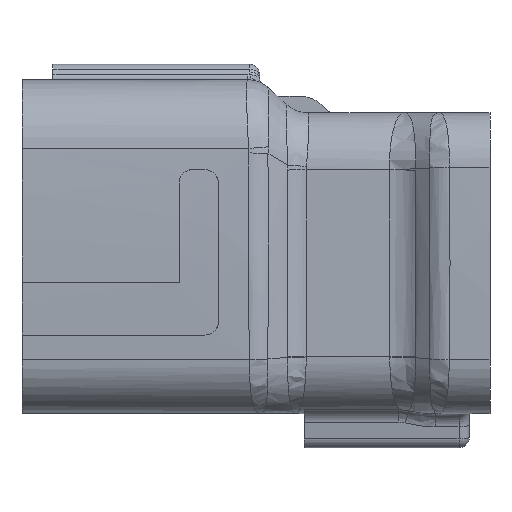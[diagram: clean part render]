
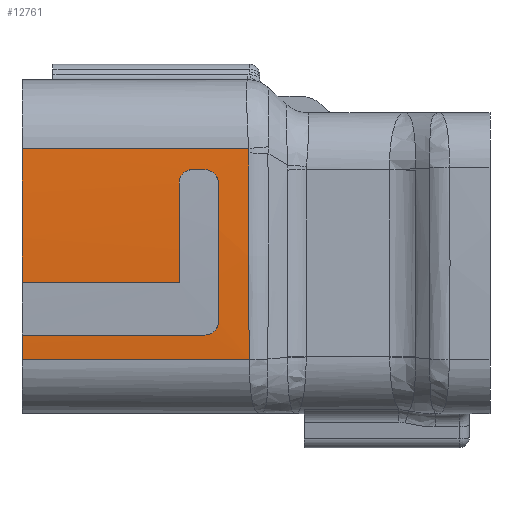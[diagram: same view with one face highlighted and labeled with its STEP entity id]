
A CAD part, front view. The second image highlights one B-rep face of the part: STEP entity #12761.
In plain terms, the highlighted cylindrical face has radius 203.1 mm (diameter 406.2 mm), a partial arc.
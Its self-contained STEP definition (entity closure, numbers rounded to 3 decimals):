
#10867=AXIS2_PLACEMENT_3D('Circle Axis2P3D',#10865,#10866,$) ;
#10954=AXIS2_PLACEMENT_3D('Circle Axis2P3D',#10952,#10953,$) ;
#12732=AXIS2_PLACEMENT_3D('Cylinder Axis2P3D',#12729,#12730,#12731) ;
#12736=AXIS2_PLACEMENT_3D('Circle Axis2P3D',#12734,#12735,$) ;
#12741=AXIS2_PLACEMENT_3D('Circle Axis2P3D',#12739,#12740,$) ;
#9660=CARTESIAN_POINT('Vertex',(0.442,-15.151,19.646)) ;
#9803=CARTESIAN_POINT('Vertex',(0.494,-15.135,-0.781)) ;
#10601=CARTESIAN_POINT('Vertex',(0.463,-15.172,19.223)) ;
#10605=CARTESIAN_POINT('Control Point',(0.463,-15.172,19.223)) ;
#10606=CARTESIAN_POINT('Control Point',(0.463,-15.172,19.227)) ;
#10607=CARTESIAN_POINT('Control Point',(0.463,-15.172,19.231)) ;
#10608=CARTESIAN_POINT('Control Point',(0.463,-15.171,19.234)) ;
#10609=CARTESIAN_POINT('Control Point',(0.464,-15.167,19.316)) ;
#10610=CARTESIAN_POINT('Control Point',(0.462,-15.163,19.399)) ;
#10611=CARTESIAN_POINT('Control Point',(0.458,-15.16,19.48)) ;
#10612=CARTESIAN_POINT('Control Point',(0.451,-15.156,19.563)) ;
#10613=CARTESIAN_POINT('Control Point',(0.442,-15.151,19.646)) ;
#10719=CARTESIAN_POINT('Vertex',(0.494,-15.135,-0.773)) ;
#10723=CARTESIAN_POINT('Control Point',(0.494,-15.135,-0.773)) ;
#10724=CARTESIAN_POINT('Control Point',(0.49,-15.149,-0.493)) ;
#10725=CARTESIAN_POINT('Control Point',(0.486,-15.163,-0.212)) ;
#10726=CARTESIAN_POINT('Control Point',(0.483,-15.177,0.075)) ;
#10727=CARTESIAN_POINT('Control Point',(0.476,-15.203,0.641)) ;
#10728=CARTESIAN_POINT('Control Point',(0.469,-15.227,1.207)) ;
#10729=CARTESIAN_POINT('Control Point',(0.466,-15.238,1.493)) ;
#10730=CARTESIAN_POINT('Control Point',(0.433,-15.361,4.637)) ;
#10731=CARTESIAN_POINT('Control Point',(0.415,-15.422,7.782)) ;
#10732=CARTESIAN_POINT('Control Point',(0.411,-15.428,10.644)) ;
#10733=CARTESIAN_POINT('Control Point',(0.419,-15.378,13.79)) ;
#10734=CARTESIAN_POINT('Control Point',(0.443,-15.268,16.937)) ;
#10735=CARTESIAN_POINT('Control Point',(0.445,-15.257,17.223)) ;
#10736=CARTESIAN_POINT('Control Point',(0.448,-15.241,17.652)) ;
#10737=CARTESIAN_POINT('Control Point',(0.452,-15.223,18.08)) ;
#10738=CARTESIAN_POINT('Control Point',(0.453,-15.217,18.223)) ;
#10739=CARTESIAN_POINT('Control Point',(0.456,-15.205,18.509)) ;
#10740=CARTESIAN_POINT('Control Point',(0.459,-15.192,18.795)) ;
#10741=CARTESIAN_POINT('Control Point',(0.46,-15.185,18.938)) ;
#10742=CARTESIAN_POINT('Control Point',(0.462,-15.179,19.081)) ;
#10743=CARTESIAN_POINT('Control Point',(0.463,-15.172,19.223)) ;
#10798=CARTESIAN_POINT('Control Point',(0.494,-15.135,-0.781)) ;
#10799=CARTESIAN_POINT('Control Point',(0.494,-15.135,-0.78)) ;
#10800=CARTESIAN_POINT('Control Point',(0.494,-15.135,-0.778)) ;
#10801=CARTESIAN_POINT('Control Point',(0.494,-15.135,-0.776)) ;
#10802=CARTESIAN_POINT('Control Point',(0.494,-15.135,-0.775)) ;
#10803=CARTESIAN_POINT('Control Point',(0.494,-15.135,-0.773)) ;
#10818=CARTESIAN_POINT('Control Point',(-2.5,-15.289,16.3)) ;
#10819=CARTESIAN_POINT('Control Point',(-2.5,-15.273,16.81)) ;
#10820=CARTESIAN_POINT('Control Point',(-2.772,-15.253,17.327)) ;
#10821=CARTESIAN_POINT('Control Point',(-3.289,-15.242,17.6)) ;
#10822=CARTESIAN_POINT('Control Point',(-3.8,-15.242,17.6)) ;
#10823=CARTESIAN_POINT('Vertex',(-2.5,-15.289,16.3)) ;
#10825=CARTESIAN_POINT('Vertex',(-3.8,-15.242,17.6)) ;
#10862=CARTESIAN_POINT('Vertex',(-6.3,-15.289,16.3)) ;
#10865=CARTESIAN_POINT('Axis2P3D Location',(-6.3,187.7,9.6)) ;
#10869=CARTESIAN_POINT('Vertex',(-6.3,-15.379,6.7)) ;
#10897=CARTESIAN_POINT('Vertex',(-5.,-15.242,17.6)) ;
#10905=CARTESIAN_POINT('Line Origine',(-4.4,-15.242,17.6)) ;
#10923=CARTESIAN_POINT('Control Point',(-6.3,-15.289,16.3)) ;
#10924=CARTESIAN_POINT('Control Point',(-6.3,-15.273,16.81)) ;
#10925=CARTESIAN_POINT('Control Point',(-6.028,-15.253,17.327)) ;
#10926=CARTESIAN_POINT('Control Point',(-5.511,-15.242,17.6)) ;
#10927=CARTESIAN_POINT('Control Point',(-5.,-15.242,17.6)) ;
#10949=CARTESIAN_POINT('Vertex',(-2.5,-15.289,2.9)) ;
#10952=CARTESIAN_POINT('Axis2P3D Location',(-2.5,187.7,9.6)) ;
#10975=CARTESIAN_POINT('Control Point',(-2.5,-15.289,2.9)) ;
#10976=CARTESIAN_POINT('Control Point',(-2.5,-15.273,2.39)) ;
#10977=CARTESIAN_POINT('Control Point',(-2.772,-15.253,1.873)) ;
#10978=CARTESIAN_POINT('Control Point',(-3.289,-15.242,1.6)) ;
#10979=CARTESIAN_POINT('Control Point',(-3.8,-15.242,1.6)) ;
#10980=CARTESIAN_POINT('Vertex',(-3.8,-15.242,1.6)) ;
#12490=CARTESIAN_POINT('Line Origine',(-13.9,-15.379,6.7)) ;
#12494=CARTESIAN_POINT('Vertex',(-21.5,-15.379,6.7)) ;
#12532=CARTESIAN_POINT('Vertex',(-21.5,-15.151,19.646)) ;
#12535=CARTESIAN_POINT('Line Origine',(1.5,-15.151,19.646)) ;
#12552=CARTESIAN_POINT('Line Origine',(1.5,-15.135,-0.781)) ;
#12556=CARTESIAN_POINT('Vertex',(-21.5,-15.135,-0.781)) ;
#12692=CARTESIAN_POINT('Vertex',(-21.5,-15.242,1.6)) ;
#12695=CARTESIAN_POINT('Line Origine',(-12.65,-15.242,1.6)) ;
#12729=CARTESIAN_POINT('Axis2P3D Location',(1.5,187.7,9.6)) ;
#12734=CARTESIAN_POINT('Axis2P3D Location',(-21.5,187.7,9.6)) ;
#12739=CARTESIAN_POINT('Axis2P3D Location',(-21.5,187.7,9.6)) ;
#10866=DIRECTION('Axis2P3D Direction',(1.,-0.,0.)) ;
#10906=DIRECTION('Vector Direction',(-1.,0.,0.)) ;
#10953=DIRECTION('Axis2P3D Direction',(-1.,0.,-0.)) ;
#12491=DIRECTION('Vector Direction',(-1.,0.,0.)) ;
#12536=DIRECTION('Vector Direction',(-1.,0.,0.)) ;
#12553=DIRECTION('Vector Direction',(-1.,0.,0.)) ;
#12696=DIRECTION('Vector Direction',(1.,0.,0.)) ;
#12730=DIRECTION('Axis2P3D Direction',(-1.,0.,0.)) ;
#12731=DIRECTION('Axis2P3D XDirection',(-0.,-0.999,-0.051)) ;
#12735=DIRECTION('Axis2P3D Direction',(-1.,0.,0.)) ;
#12740=DIRECTION('Axis2P3D Direction',(-1.,0.,0.)) ;
#10907=VECTOR('Line Direction',#10906,1.) ;
#12492=VECTOR('Line Direction',#12491,1.) ;
#12537=VECTOR('Line Direction',#12536,1.) ;
#12554=VECTOR('Line Direction',#12553,1.) ;
#12697=VECTOR('Line Direction',#12696,1.) ;
#12745=ORIENTED_EDGE('',*,*,#12738,.T.) ;
#12746=ORIENTED_EDGE('',*,*,#12558,.F.) ;
#12747=ORIENTED_EDGE('',*,*,#10804,.T.) ;
#12748=ORIENTED_EDGE('',*,*,#10744,.T.) ;
#12749=ORIENTED_EDGE('',*,*,#10614,.T.) ;
#12750=ORIENTED_EDGE('',*,*,#12539,.T.) ;
#12751=ORIENTED_EDGE('',*,*,#12743,.T.) ;
#12752=ORIENTED_EDGE('',*,*,#12496,.F.) ;
#12753=ORIENTED_EDGE('',*,*,#10871,.F.) ;
#12754=ORIENTED_EDGE('',*,*,#10928,.F.) ;
#12755=ORIENTED_EDGE('',*,*,#10909,.F.) ;
#12756=ORIENTED_EDGE('',*,*,#10827,.F.) ;
#12757=ORIENTED_EDGE('',*,*,#10956,.F.) ;
#12758=ORIENTED_EDGE('',*,*,#10982,.F.) ;
#12759=ORIENTED_EDGE('',*,*,#12699,.F.) ;
#12761=ADVANCED_FACE('HSG \X2\306E7D50679C\X0\',(#12760),#12733,.T.) ;
#10604=B_SPLINE_CURVE_WITH_KNOTS('',5,(#10605,#10606,#10607,#10608,#10609,#10610,#10611,#10612,#10613),.UNSPECIFIED.,.F.,.U.,(6,3,6),(35.462,35.499,36.291),.UNSPECIFIED.) ;
#10722=B_SPLINE_CURVE_WITH_KNOTS('',5,(#10723,#10724,#10725,#10726,#10727,#10728,#10729,#10730,#10731,#10732,#10733,#10734,#10735,#10736,#10737,#10738,#10739,#10740,#10741,#10742,#10743),.UNSPECIFIED.,.F.,.U.,(6,3,3,3,3,3,6),(5.841,7.848,9.893,30.343,32.386,33.407,34.428),.UNSPECIFIED.) ;
#10797=B_SPLINE_CURVE_WITH_KNOTS('',5,(#10798,#10799,#10800,#10801,#10802,#10803),.UNSPECIFIED.,.F.,.U.,(6,6),(23.203,23.219),.UNSPECIFIED.) ;
#10817=B_SPLINE_CURVE_WITH_KNOTS('',4,(#10818,#10819,#10820,#10821,#10822),.UNSPECIFIED.,.F.,.U.,(5,5),(0.,2.889),.UNSPECIFIED.) ;
#10922=B_SPLINE_CURVE_WITH_KNOTS('',4,(#10923,#10924,#10925,#10926,#10927),.UNSPECIFIED.,.F.,.U.,(5,5),(0.,2.889),.UNSPECIFIED.) ;
#10974=B_SPLINE_CURVE_WITH_KNOTS('',4,(#10975,#10976,#10977,#10978,#10979),.UNSPECIFIED.,.F.,.U.,(5,5),(0.,2.889),.UNSPECIFIED.) ;
#10868=CIRCLE('generated circle',#10867,203.1) ;
#10955=CIRCLE('generated circle',#10954,203.1) ;
#12737=CIRCLE('generated circle',#12736,203.1) ;
#12742=CIRCLE('generated circle',#12741,203.1) ;
#12733=CYLINDRICAL_SURFACE('generated cylinder',#12732,203.1) ;
#10614=EDGE_CURVE('',#10602,#9661,#10604,.T.) ;
#10744=EDGE_CURVE('',#10720,#10602,#10722,.T.) ;
#10804=EDGE_CURVE('',#9804,#10720,#10797,.T.) ;
#10827=EDGE_CURVE('',#10824,#10826,#10817,.T.) ;
#10871=EDGE_CURVE('',#10863,#10870,#10868,.T.) ;
#10909=EDGE_CURVE('',#10826,#10898,#10908,.T.) ;
#10928=EDGE_CURVE('',#10898,#10863,#10922,.F.) ;
#10956=EDGE_CURVE('',#10950,#10824,#10955,.T.) ;
#10982=EDGE_CURVE('',#10981,#10950,#10974,.F.) ;
#12496=EDGE_CURVE('',#10870,#12495,#12493,.T.) ;
#12539=EDGE_CURVE('',#9661,#12533,#12538,.T.) ;
#12558=EDGE_CURVE('',#9804,#12557,#12555,.T.) ;
#12699=EDGE_CURVE('',#12693,#10981,#12698,.T.) ;
#12738=EDGE_CURVE('',#12693,#12557,#12737,.F.) ;
#12743=EDGE_CURVE('',#12533,#12495,#12742,.F.) ;
#12744=EDGE_LOOP('',(#12745,#12746,#12747,#12748,#12749,#12750,#12751,#12752,#12753,#12754,#12755,#12756,#12757,#12758,#12759)) ;
#12760=FACE_OUTER_BOUND('',#12744,.T.) ;
#10908=LINE('Line',#10905,#10907) ;
#12493=LINE('Line',#12490,#12492) ;
#12538=LINE('Line',#12535,#12537) ;
#12555=LINE('Line',#12552,#12554) ;
#12698=LINE('Line',#12695,#12697) ;
#9661=VERTEX_POINT('',#9660) ;
#9804=VERTEX_POINT('',#9803) ;
#10602=VERTEX_POINT('',#10601) ;
#10720=VERTEX_POINT('',#10719) ;
#10824=VERTEX_POINT('',#10823) ;
#10826=VERTEX_POINT('',#10825) ;
#10863=VERTEX_POINT('',#10862) ;
#10870=VERTEX_POINT('',#10869) ;
#10898=VERTEX_POINT('',#10897) ;
#10950=VERTEX_POINT('',#10949) ;
#10981=VERTEX_POINT('',#10980) ;
#12495=VERTEX_POINT('',#12494) ;
#12533=VERTEX_POINT('',#12532) ;
#12557=VERTEX_POINT('',#12556) ;
#12693=VERTEX_POINT('',#12692) ;
